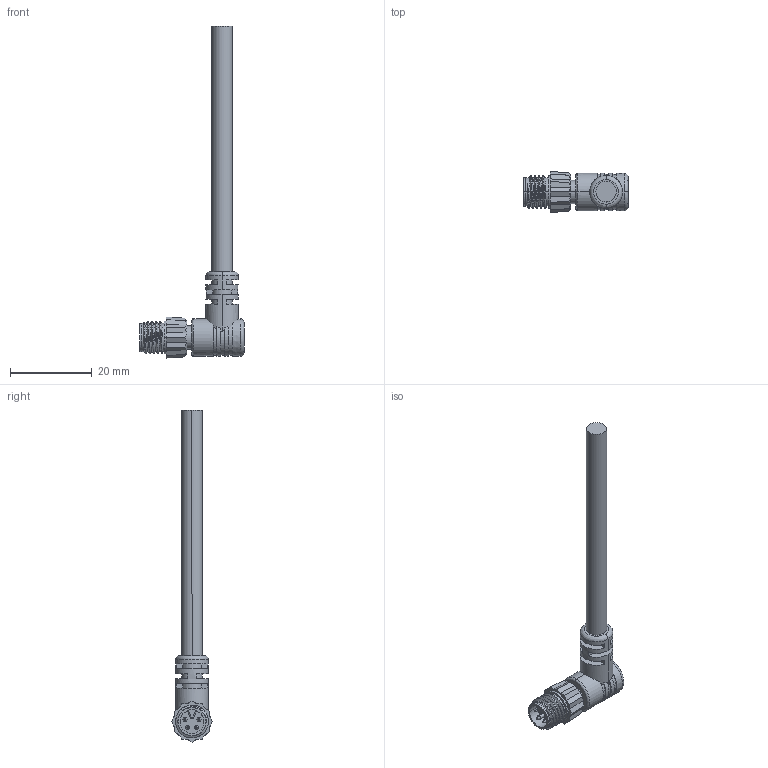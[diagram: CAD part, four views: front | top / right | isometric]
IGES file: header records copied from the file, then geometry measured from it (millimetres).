
Start section:  PTC IGES file: 8AP-04AMMM-SR7AXX.igs
Global section: file name: 8AP-04AMMM-SR7AXX.igs; native system: Creo Parametric by Parametric Technology Corporation; preprocessor: 2013050; author: LT0842; organization: Unknown; date: 20140318.133335; units: millimetre
Bounding box: 25.5 x 10 x 81.1 mm (x, y, z)
Volume: 3021.3 mm3; surface area: 2979.1 mm2
Topology: 1 solids, 2 shells, 329 faces, 868 edges, 564 vertices
Faces by surface type: bspline 146, revolution 143, extrusion 40
